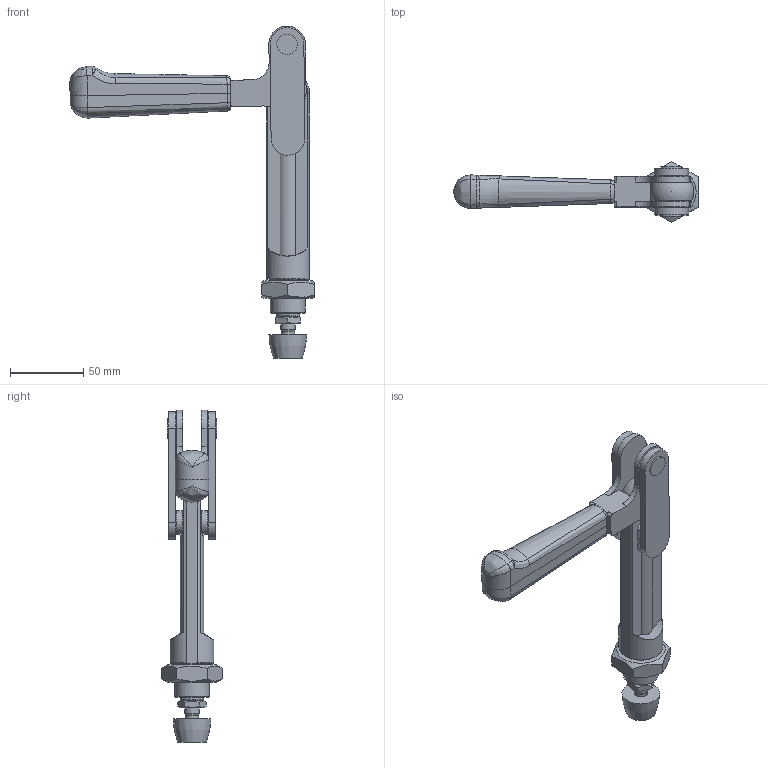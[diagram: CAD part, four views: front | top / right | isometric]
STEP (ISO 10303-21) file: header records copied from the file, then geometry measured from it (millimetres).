
FILE_DESCRIPTION((''),'2;1');
FILE_NAME('C:\Users\Hyperbook\Desktop\Konstrukcja\Nowa baza dociskow\049.3\STEP\049.3 O.stp','2019-01-14T09:22:52',('Hyperbook'),(''),'Autodesk Inventor 2012','Autodesk Inventor 2012','');
FILE_SCHEMA(('AUTOMOTIVE_DESIGN { 1 0 10303 214 1 1 1 1 }'));
Length unit declared in the file: millimetre
Products named in the file (1): 049.3 O
Bounding box: 167.26 x 41.57 x 227.3 mm (x, y, z)
Volume: 177198.5 mm3; surface area: 47339.7 mm2
Topology: 1 solids, 3 shells, 343 faces, 929 edges, 597 vertices
Faces by surface type: plane 165, bspline 102, cylinder 53, cone 16, torus 6, sphere 1
Full cylindrical faces by diameter (mm): 9.188 x1, 10 x2, 14 x6, 16 x4, 24 x2
Entity records: 12301 total; most frequent: CARTESIAN_POINT 4144, ORIENTED_EDGE 1772, DIRECTION 1283, EDGE_CURVE 886, VERTEX_POINT 589, VECTOR 457, LINE 457, AXIS2_PLACEMENT_3D 413
